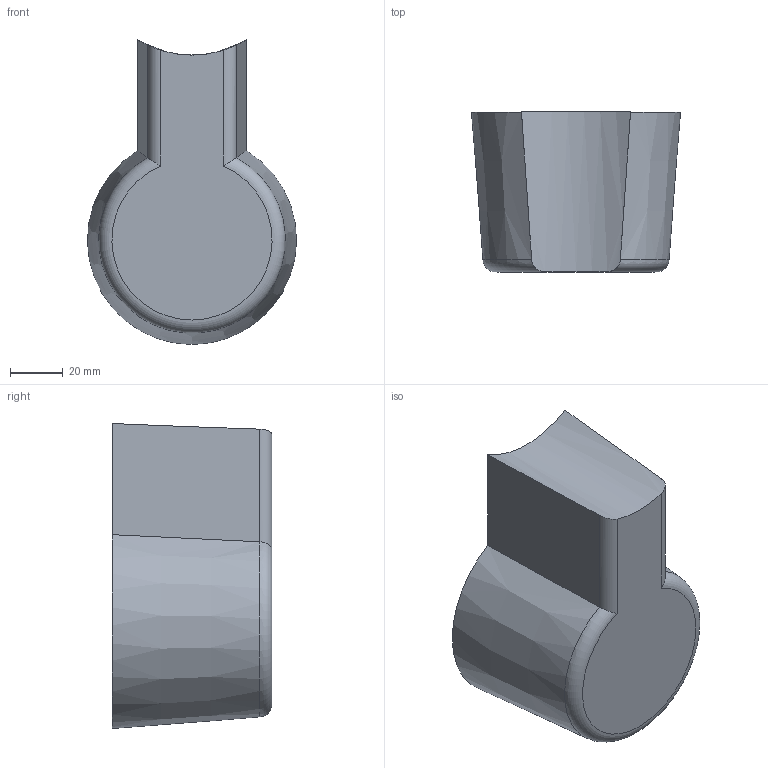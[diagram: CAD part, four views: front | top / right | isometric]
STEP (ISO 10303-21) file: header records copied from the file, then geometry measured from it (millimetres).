
FILE_DESCRIPTION(/* description */ (''),/* implementation_level */ '2;1');
FILE_NAME(/* name */ 'C:/Users/KevinW5/Desktop/Cup_holder_final_Modified v1.step',/* time_stamp */ '2019-06-30T15:24:54+02:00',/* author */ (''),/* organization */ (''),/* preprocessor_version */ 'ST-DEVELOPER v18',/* originating_system */ 'Autodesk Translation Framework v8.2.0.1029',/* authorisation */ '');
FILE_SCHEMA (('AUTOMOTIVE_DESIGN { 1 0 10303 214 3 1 1 }'));
Length unit declared in the file: millimetre
Products named in the file (1): Cup_holder_final_Modified
Bounding box: 79.23 x 60.54 x 115.54 mm (x, y, z)
Volume: 175771.6 mm3; surface area: 64682.2 mm2
Topology: 2 solids, 2 shells, 40 faces, 93 edges, 62 vertices
Faces by surface type: plane 33, cylinder 3, bspline 2, torus 1, cone 1
Entity records: 1313 total; most frequent: CARTESIAN_POINT 383, ORIENTED_EDGE 186, DIRECTION 166, EDGE_CURVE 93, LINE 70, VECTOR 70, VERTEX_POINT 62, AXIS2_PLACEMENT_3D 48
